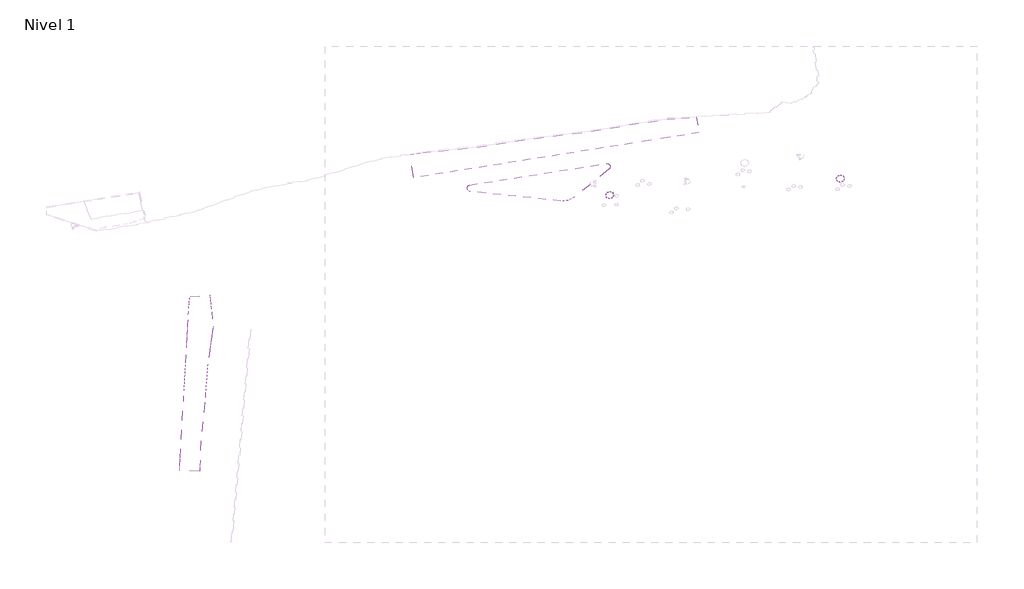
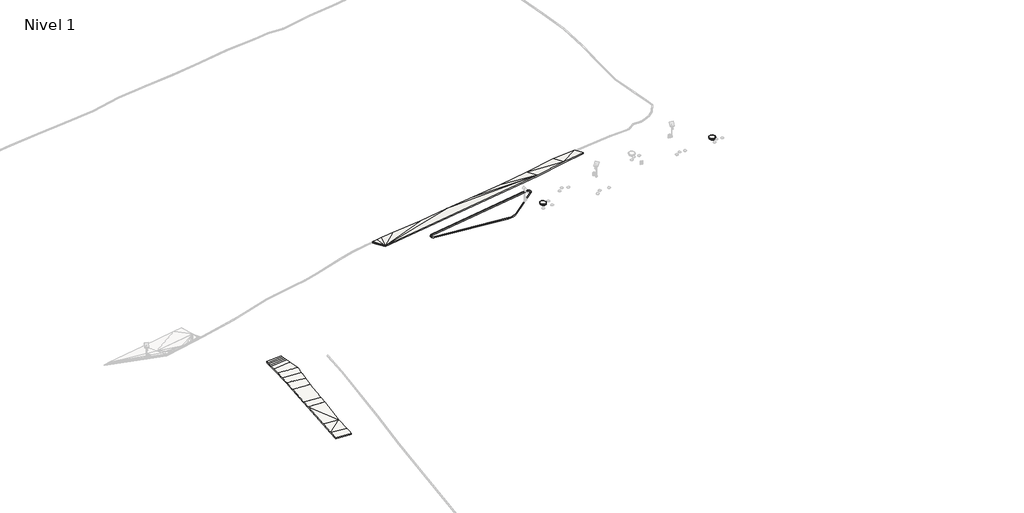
# One storey, part 3 of 45: 7 slabs.
"""IFC4 building model written with IfcOpenShell, lengths in millimetres."""

from ifc_helpers import new_model, si_unit, point, frame, frame_2d, origin, place, context, project, spatial, polyline, circle_curve, trimmed, segment, composite_curve, outline, extrude, faceted_brep, element, save
from ifc_brep_helpers import plane_surface, spline_surface, advanced_brep

model = new_model("IFC4")

# Units and contexts
model_context = context("Model", 3, world=origin())
ifc_project = project(units=[si_unit("LENGTHUNIT", "METRE", prefix="MILLI")], contexts=[model_context])

# Site, building, storey
site = spatial("IfcSite", under=ifc_project)
building = spatial("IfcBuilding", under=site)
storey = spatial("IfcBuildingStorey", under=building, Name="Nivel 1", Elevation=0.0)

# Slabs
placement = place(None, origin())
element("IfcSlab", 1, ObjectType="Lippia", at=placement, inside=storey, context=model_context, shape_type="AdvancedBrep", body=[
    advanced_brep(
    [(-184496.1058246, -654322.7429329, 3554.6), (-184496.1058246, -654322.7429329, 3854.6), (-189731.4161005, -654106.1970903, 3854.6), (-189731.4161005, -654106.1970903, 3554.6), (-189546.2532869, -650883.0380805, 3905.3), (-189263.2407896, -645956.5938192, 3792.3), (-188699.2810223, -636139.6550432, 3847.0), (-188537.7360528, -633327.6156616, 3838.2), (-188125.5251199, -626152.1933592, 3814.2), (-187891.4621024, -622077.8206015, 3700.8), (-187723.1731787, -619148.3881192, 3595.1), (-187554.884255, -616218.9556368, 3497.3), (-187402.5827669, -613567.8190297, 3254.9), (-187310.4012389, -611963.2002797, 3151.0581521), (-187257.4338361, -611041.1881429, 3091.3592409), (-187218.2201095, -610358.5884689, 3047.2086944), (-187218.2201095, -610358.5884689, 2747.2086944), (-187257.4336529, -611041.1849533, 2791.4086944), (-187310.401404, -611963.2031537, 2851.0135864), (-187402.5828387, -613567.8202798, 2954.880616), (-187554.884255, -616218.9556368, 3197.3), (-187723.1731787, -619148.3881192, 3295.1), (-187891.4621024, -622077.8206015, 3400.8), (-188125.5251199, -626152.1933592, 3514.2), (-188537.7360528, -633327.6156616, 3538.2), (-188699.2810223, -636139.6550432, 3547.0), (-189263.2407896, -645956.5938192, 3492.3), (-189546.2532869, -650883.0380805, 3605.3), (-187109.8732387, -609615.93529, 2999.6112), (-187001.5265407, -608873.2829554, 2999.608433), (-187001.5265407, -608873.2829554, 2699.608433), (-187109.8733412, -609615.9359927, 2699.608433), (-181876.8339369, -608524.4190706, 2999.608433), (-181876.8339369, -608524.4190706, 2699.608433), (-181820.6810077, -609041.0458533, 2999.608433), (-181742.1684498, -609763.3891164, 3047.2156632), (-181669.3002328, -610433.8024494, 3091.392846), (-181570.8732642, -611339.365325, 3151.0533657), (-181399.5777228, -612915.3448078, 3254.8407781), (-180999.5715642, -616595.5427485, 3497.3), (-180999.5715642, -616595.5427485, 3197.3), (-181399.57786, -612915.3435457, 2954.8601621), (-181570.8730309, -611339.3674716, 2851.0203953), (-181669.3002674, -610433.8021313, 2791.3977379), (-181742.1682915, -609763.3905729, 2747.1933132), (-181820.6809812, -609041.0460964, 2699.6299987), (-181440.9191333, -619645.5123723, 3595.0893085), (-181917.9707778, -622942.2180219, 3700.789563), (-182429.8204007, -626479.3980389, 3814.2), (-182429.8204007, -626479.3980389, 3514.2), (-181917.9707778, -622942.2180219, 3400.789563), (-181440.9191333, -619645.5123723, 3295.0893085), (-183006.3665143, -633765.3212894, 3838.1575383), (-183219.1632911, -636454.4747635, 3847.0), (-183219.1632911, -636454.4747635, 3547.0), (-183006.3665143, -633765.3212894, 3538.1575383), (-184270.6425846, -646409.1370107, 3792.3), (-184270.6425846, -646409.1370107, 3492.3), (-184376.4178112, -651429.1113493, 3905.3), (-184376.4178112, -651429.1113493, 3605.3)],
    [
        (0, 1),
        (1, 2),
        (2, 3),
        (3, 0),
        (2, 4),
        (4, 5),
        (5, 6),
        (6, 7),
        (7, 8),
        (8, 9),
        (9, 10),
        (10, 11),
        (11, 12),
        (12, 13),
        (13, 14),
        (14, 15),
        (15, 16),
        (16, 17),
        (17, 18),
        (18, 19),
        (19, 20),
        (20, 21),
        (21, 22),
        (22, 23),
        (23, 24),
        (24, 25),
        (25, 26),
        (26, 27),
        (27, 3),
        (15, 28),
        (28, 29),
        (29, 30),
        (30, 31),
        (31, 16),
        (29, 32),
        (32, 33),
        (33, 30),
        (32, 34),
        (34, 35),
        (35, 36),
        (36, 37),
        (37, 38),
        (38, 39),
        (39, 40),
        (40, 41),
        (41, 42),
        (42, 43),
        (43, 44),
        (44, 45),
        (45, 33),
        (39, 46),
        (46, 47),
        (47, 48),
        (48, 49),
        (49, 50),
        (50, 51),
        (51, 40),
        (48, 52),
        (52, 53),
        (53, 54),
        (54, 55),
        (55, 49),
        (53, 56),
        (56, 57),
        (57, 54),
        (56, 58),
        (58, 59),
        (59, 57),
        (58, 1),
        (0, 59),
        (56, 4),
        (4, 58),
        (59, 27),
        (27, 57),
        (28, 34),
        (45, 31),
        (53, 6),
        (6, 56),
        (57, 25),
        (25, 54),
        (5, 56),
        (57, 26),
        (48, 8),
        (7, 52),
        (55, 24),
        (23, 49),
        (39, 11),
        (10, 46),
        (51, 21),
        (20, 40),
        (47, 9),
        (22, 50),
        (38, 12),
        (37, 13),
        (19, 41),
        (18, 42),
        (36, 14),
        (35, 15),
        (17, 43),
        (16, 44),
    ],
    [
        plane_surface(frame((-184496.1058246, -654322.7429329, 2600.0), z_axis=(-0.04132722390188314, -0.9991456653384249, 0.0), x_axis=(0.0, 0.0, 1.0))),
        plane_surface(frame((-189731.4161005, -654106.1970903, 2600.0), z_axis=(-0.9983539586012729, 0.057353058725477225, 0.0), x_axis=(0.0, 0.0, 1.0))),
        plane_surface(frame((-187218.2201417, -610358.58903, 2600.0), z_axis=(-0.989524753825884, 0.14436329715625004, 0.0), x_axis=(0.0, 0.0, 1.0))),
        plane_surface(frame((-187001.5265407, -608873.2829554, 2600.0), z_axis=(-0.0679178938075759, 0.9976909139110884, 0.0), x_axis=(0.0, 0.0, 1.0))),
        plane_surface(frame((-181876.8339369, -608524.4190706, 2600.0), z_axis=(0.9941449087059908, 0.10805508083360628, 0.0), x_axis=(0.0, 0.0, 1.0))),
        plane_surface(frame((-180999.5715642, -616595.5427485, 2600.0), z_axis=(0.989691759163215, -0.14321390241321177, 0.0), x_axis=(0.0, 0.0, 1.0))),
        plane_surface(frame((-182429.8204007, -626479.3980389, 2600.0), z_axis=(0.9968837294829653, -0.07888491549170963, 0.0), x_axis=(0.0, 0.0, 1.0))),
        plane_surface(frame((-183219.1632911, -636454.4747635, 2600.0), z_axis=(0.9944677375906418, -0.10504246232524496, 0.0), x_axis=(0.0, 0.0, 1.0))),
        plane_surface(frame((-184270.6425846, -646409.1370107, 2600.0), z_axis=(0.999778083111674, -0.02106619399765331, 0.0), x_axis=(0.0, 0.0, 1.0))),
        plane_surface(frame((-184376.4178112, -651429.1113493, 2600.0), z_axis=(0.9991456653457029, -0.04132722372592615, 0.0), x_axis=(0.0, 0.0, 1.0))),
        plane_surface(frame((-186064.4378942, -649573.7621468, 3867.6333333), z_axis=(0.0023717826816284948, 0.022454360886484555, 0.9997450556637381), x_axis=(0.021060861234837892, 0.9995249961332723, -0.022499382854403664))),
        plane_surface(frame((-186064.4378942, -649573.7621468, 3567.6333333), z_axis=(-0.0023717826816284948, -0.022454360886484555, -0.9997450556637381), x_axis=(0.021060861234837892, 0.9995249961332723, -0.022499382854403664))),
        plane_surface(frame((-184452.2287066, -609013.670968, 2999.608433), z_axis=(0.0, 0.0, 1.0), x_axis=(-0.9976909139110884, -0.0679178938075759, 0.0))),
        plane_surface(frame((-184452.2287066, -609013.670968, 2699.608433), z_axis=(0.0, 0.0, -1.0), x_axis=(-0.9976909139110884, -0.0679178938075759, 0.0))),
        plane_surface(frame((-185396.3622993, -639667.7556058, 3828.7666667), z_axis=(-0.0003137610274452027, -0.005461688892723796, 0.9999850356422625), x_axis=(0.10504089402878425, 0.9944528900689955, 0.005464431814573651))),
        plane_surface(frame((-185396.3622993, -639667.7556058, 3528.7666667), z_axis=(0.0003137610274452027, 0.005461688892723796, -0.9999850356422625), x_axis=(0.10504089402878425, 0.9944528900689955, 0.005464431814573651))),
        plane_surface(frame((-187411.0547988, -642835.1286244, 3810.5333333), z_axis=(-0.0005024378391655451, -0.005543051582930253, 0.9999845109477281), x_axis=(-0.39598579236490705, 0.9182436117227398, 0.00489098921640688))),
        plane_surface(frame((-187411.0547988, -642835.1286244, 3510.5333333), z_axis=(0.0005024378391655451, 0.005543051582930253, -0.9999845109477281), x_axis=(-0.39598579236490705, 0.9182436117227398, 0.00489098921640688))),
        spline_surface(1, 1, [[(-188125.5251199, -626152.1933592, 3814.2), (-182429.8204007, -626479.3980389, 3814.2)], [(-188537.7360528, -633327.6156616, 3838.2), (-183006.3665143, -633765.3212894, 3838.1575383)]], [2, 2], [2, 2], [0.0, 1.0], [0.0, 1.0]),
        spline_surface(1, 1, [[(-188125.5251199, -626152.1933592, 3514.2), (-188537.7360528, -633327.6156616, 3538.2)], [(-182429.8204007, -626479.3980389, 3514.2), (-183006.3665143, -633765.3212894, 3538.1575383)]], [2, 2], [2, 2], [0.0, 1.0], [0.0, 1.0]),
        spline_surface(1, 1, [[(-187554.884255, -616218.9556368, 3497.3), (-180999.5715642, -616595.5427485, 3497.3)], [(-187723.1731787, -619148.3881192, 3595.1), (-181440.9191333, -619645.5123723, 3595.0893085)]], [2, 2], [2, 2], [0.0, 1.0], [0.0, 1.0]),
        spline_surface(1, 1, [[(-187554.884255, -616218.9556368, 3197.3), (-187723.1731787, -619148.3881192, 3295.1)], [(-180999.5715642, -616595.5427485, 3197.3), (-181440.9191333, -619645.5123723, 3295.0893085)]], [2, 2], [2, 2], [0.0, 1.0], [0.0, 1.0]),
        plane_surface(frame((-187693.378887, -647749.5896368, 3829.9666667), z_axis=(0.0020678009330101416, 0.022812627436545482, 0.9997376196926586), x_axis=(-0.9959170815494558, 0.09027273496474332, 0.0))),
        spline_surface(1, 1, [[(-189546.2532869, -650883.0380805, 3905.3), (-184376.4178112, -651429.1113493, 3905.3)], [(-189731.4161005, -654106.1970903, 3854.6), (-184496.1058246, -654322.7429329, 3854.6)]], [2, 2], [2, 2], [0.0, 1.0], [0.0, 1.0]),
        plane_surface(frame((-187693.378887, -647749.5896368, 3529.9666667), z_axis=(-0.0020678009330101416, -0.022812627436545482, -0.9997376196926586), x_axis=(-0.9959170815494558, 0.09027273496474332, 0.0))),
        spline_surface(1, 1, [[(-189546.2532869, -650883.0380805, 3605.3), (-189731.4161005, -654106.1970903, 3554.6)], [(-184376.4178112, -651429.1113493, 3605.3), (-184496.1058246, -654322.7429329, 3554.6)]], [2, 2], [2, 2], [0.0, 1.0], [0.0, 1.0]),
        spline_surface(1, 1, [[(-183006.3665143, -633765.3212894, 3838.1575383), (-183219.1632911, -636454.4747635, 3847.0)], [(-188537.7360528, -633327.6156616, 3838.2), (-188699.2810223, -636139.6550432, 3847.0)]], [2, 2], [2, 2], [0.0, 1.0], [0.0, 1.0]),
        spline_surface(1, 1, [[(-183006.3665143, -633765.3212894, 3538.1575383), (-188537.7360528, -633327.6156616, 3538.2)], [(-183219.1632911, -636454.4747635, 3547.0), (-188699.2810223, -636139.6550432, 3547.0)]], [2, 2], [2, 2], [0.0, 1.0], [0.0, 1.0]),
        spline_surface(1, 1, [[(-181917.9707778, -622942.2180219, 3700.789563), (-182429.8204007, -626479.3980389, 3814.2)], [(-187891.4621024, -622077.8206015, 3700.8), (-188125.5251199, -626152.1933592, 3814.2)]], [2, 2], [2, 2], [0.0, 1.0], [0.0, 1.0]),
        spline_surface(1, 1, [[(-181917.9707778, -622942.2180219, 3700.789563), (-187891.4621024, -622077.8206015, 3700.8)], [(-181440.9191333, -619645.5123723, 3595.0893085), (-187723.1731787, -619148.3881192, 3595.1)]], [2, 2], [2, 2], [0.0, 1.0], [0.0, 1.0]),
        spline_surface(1, 1, [[(-181917.9707778, -622942.2180219, 3400.789563), (-187891.4621024, -622077.8206015, 3400.8)], [(-182429.8204007, -626479.3980389, 3514.2), (-188125.5251199, -626152.1933592, 3514.2)]], [2, 2], [2, 2], [0.0, 1.0], [0.0, 1.0]),
        spline_surface(1, 1, [[(-181917.9707778, -622942.2180219, 3400.789563), (-181440.9191333, -619645.5123723, 3295.0893085)], [(-187891.4621024, -622077.8206015, 3400.8), (-187723.1731787, -619148.3881192, 3295.1)]], [2, 2], [2, 2], [0.0, 1.0], [0.0, 1.0]),
        spline_surface(1, 1, [[(-181399.57786, -612915.3435457, 3254.8601621), (-180999.5715642, -616595.5427485, 3497.3)], [(-187402.5827669, -613567.8190297, 3254.9), (-187554.884255, -616218.9556368, 3497.3)]], [2, 2], [2, 2], [0.0, 1.0], [0.0, 1.0]),
        plane_surface(frame((-184420.8588123, -612446.4332037, 3202.9499854), z_axis=(-0.007054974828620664, 0.06496918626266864, 0.9978623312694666), x_axis=(0.9941449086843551, 0.108055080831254, -6.597469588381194e-06))),
        spline_surface(1, 1, [[(-181399.57786, -612915.3435457, 2954.8601621), (-187402.5827669, -613567.8190297, 2954.9)], [(-180999.5715642, -616595.5427485, 3197.3), (-187554.884255, -616218.9556368, 3197.3)]], [2, 2], [2, 2], [0.0, 1.0], [0.0, 1.0]),
        plane_surface(frame((-184420.8588123, -612446.4332037, 2902.9499854), z_axis=(0.007054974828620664, -0.06496918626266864, -0.9978623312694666), x_axis=(0.9941449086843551, 0.108055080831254, -6.597469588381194e-06))),
        plane_surface(frame((-184452.0021197, -611194.3896924, 3121.2059827), z_axis=(-0.007068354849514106, 0.06496773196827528, 0.9978623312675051), x_axis=(0.9941449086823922, 0.10805508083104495, 6.890186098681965e-06))),
        plane_surface(frame((-184471.7806186, -610399.2416084, 3069.300887), z_axis=(-0.007064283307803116, 0.06501993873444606, 0.9978589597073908), x_axis=(-0.05723359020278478, -0.9962743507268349, 0.06451150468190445))),
        plane_surface(frame((-184452.0021197, -611194.3896924, 2821.2059827), z_axis=(0.007068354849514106, -0.06496773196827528, -0.9978623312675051), x_axis=(0.9941449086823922, 0.10805508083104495, 6.890186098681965e-06))),
        plane_surface(frame((-184471.7806186, -610399.2416084, 2769.300887), z_axis=(0.007064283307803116, -0.06501993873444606, -0.9978589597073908), x_axis=(-0.05723359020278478, -0.9962743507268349, 0.06451150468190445))),
        plane_surface(frame((-184472.7357417, -609694.7399373, 3023.4132821), z_axis=(-0.007065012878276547, 0.06496809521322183, 0.9978623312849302), x_axis=(0.9941449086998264, 0.10805508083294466, 3.521330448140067e-06))),
        plane_surface(frame((-184472.7357417, -609694.7399373, 2723.4132821), z_axis=(0.007065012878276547, -0.06496809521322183, -0.9978623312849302), x_axis=(0.9941449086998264, 0.10805508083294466, 3.521330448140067e-06))),
    ],
    [
        (0, [[1, 2, 3, 4]]),
        (1, [[-3, 5, 6, 7, 8, 9, 10, 11, 12, 13, 14, 15, 16, 17, 18, 19, 20, 21, 22, 23, 24, 25, 26, 27, 28, 29]]),
        (2, [[-17, 30, 31, 32, 33, 34]]),
        (3, [[-32, 35, 36, 37]]),
        (4, [[-36, 38, 39, 40, 41, 42, 43, 44, 45, 46, 47, 48, 49, 50]]),
        (5, [[-44, 51, 52, 53, 54, 55, 56, 57]]),
        (6, [[-54, 58, 59, 60, 61, 62]]),
        (7, [[-60, 63, 64, 65]]),
        (8, [[-64, 66, 67, 68]]),
        (9, [[-67, 69, -1, 70]]),
        (10, [[-66, 71, 72]]),
        (11, [[73, 74, -68]]),
        (12, [[-35, -31, 75, -38]]),
        (13, [[-50, 76, -33, -37]]),
        (14, [[-63, 77, 78]]),
        (15, [[79, 80, -65]]),
        (16, [[-78, -7, 81]]),
        (17, [[82, -27, -79]]),
        (18, [[83, -9, 84, -58]]),
        (19, [[-62, 85, -25, 86]]),
        (20, [[87, -12, 88, -51]]),
        (21, [[-57, 89, -22, 90]]),
        (22, [[-81, -6, -71]]),
        (23, [[-72, -5, -2, -69]]),
        (24, [[-74, -28, -82]]),
        (25, [[-70, -4, -29, -73]]),
        (26, [[-59, -84, -8, -77]]),
        (27, [[-80, -26, -85, -61]]),
        (28, [[-53, 91, -10, -83]]),
        (29, [[-91, -52, -88, -11]]),
        (30, [[-86, -24, 92, -55]]),
        (31, [[-23, -89, -56, -92]]),
        (32, [[-43, 93, -13, -87]]),
        (33, [[-93, -42, 94, -14]]),
        (34, [[-90, -21, 95, -45]]),
        (35, [[-20, 96, -46, -95]]),
        (36, [[-94, -41, 97, -15]]),
        (37, [[-16, -97, -40, 98]]),
        (38, [[-19, 99, -47, -96]]),
        (39, [[100, -48, -99, -18]]),
        (40, [[-98, -39, -75, -30]]),
        (41, [[-34, -76, -49, -100]]),
    ],
),
])
element("IfcSlab", 2, ObjectType="Alcorque", at=placement, inside=storey, context=model_context, shape_type="SweptSolid", body=[
    extrude(outline(composite_curve([segment(trimmed(circle_curve(frame_2d((-17985.6511597, -578211.2206886)), 1050.0), [point((-16935.6511597, -578211.2206886))], [point((-19035.6511597, -578211.2206886))], False, "CARTESIAN"), True, "CONTINUOUS"), segment(trimmed(circle_curve(frame_2d((-17985.6511597, -578211.2206886)), 1050.0), [point((-19035.6511597, -578211.2206886))], [point((-16935.6511597, -578211.2206886))], False, "CARTESIAN"), True, "CONTINUOUS")], self_intersect=False), holes=[composite_curve([segment(trimmed(circle_curve(frame_2d((-17985.6511597, -578211.2206886)), 950.0), [point((-18935.6511597, -578211.2206886))], [point((-17035.6511597, -578211.2206886))], True, "CARTESIAN"), True, "CONTINUOUS"), segment(trimmed(circle_curve(frame_2d((-17985.6511597, -578211.2206886)), 950.0), [point((-17035.6511597, -578211.2206886))], [point((-18935.6511597, -578211.2206886))], True, "CARTESIAN"), True, "CONTINUOUS")], self_intersect=False)]), frame((0.0, 0.0, 5900.0), z_axis=(0.0, 0.0, 1.0), x_axis=(1.0, 0.0, 0.0)), (0.0, 0.0, 1.0), 150.0),
])
element("IfcSlab", 3, ObjectType="Tierra de Chacra (50cm)", at=placement, inside=storey, context=model_context, shape_type="Brep", body=[
    faceted_brep([(-129816.9388296, -571991.1165208, 3155.7647167), (-129816.9388296, -571991.1165208, 3655.7647167), (-129655.5920248, -571967.627223, 3656.0567702), (-129655.5920248, -571967.627223, 3156.0567702), (-128034.3017331, -571665.5111941, 3640.8165228), (-128034.3017331, -571665.5111941, 3140.8165228), (-126432.2872098, -571421.6736214, 3643.7619513), (-126432.2872098, -571421.6736214, 3143.7619513), (-122382.3988679, -570988.1509724, 3711.4313259), (-122382.3988679, -570988.1509724, 3211.4313259), (-112418.8937204, -569972.647808, 3894.7180365), (-112418.8937204, -569972.647808, 3394.7180365), (-102542.3008924, -568406.4524057, 3892.1662442), (-102542.3008924, -568406.4524057, 3392.1662442), (-92622.5293985, -567113.844871, 3981.9397493), (-92622.5293985, -567113.844871, 3481.9397493), (-82695.1778568, -565869.2658967, 4087.9016452), (-82695.1778568, -565869.2658967, 3587.9016452), (-72834.8323781, -564200.1243396, 4050.6321283), (-72834.8323781, -564200.1243396, 3550.6321283), (-62949.4567009, -562689.5786649, 4467.2590994), (-62949.4567009, -562689.5786649, 3967.2590994), (-55426.5866985, -562246.1175117, 4711.7763689), (-55426.5866985, -562246.1175117, 4211.7763689), (-54793.0137243, -566261.3535566, 6066.8228436), (-54793.0137243, -566261.3535566, 5566.8228436), (-62224.4830166, -567433.9815291, 6066.5774475), (-72102.5042676, -568992.656345, 5666.7050289), (-128876.3085986, -577951.120471, 5666.7183399), (-128876.3085986, -577951.120471, 5166.7183399), (-72102.5042676, -568992.656345, 5166.7050289), (-62224.4830166, -567433.9815291, 5566.5774475)], [[[0, 1, 2, 3]], [[3, 2, 4, 5]], [[5, 4, 6, 7]], [[7, 6, 8, 9]], [[9, 8, 10, 11]], [[11, 10, 12, 13]], [[13, 12, 14, 15]], [[15, 14, 16, 17]], [[17, 16, 18, 19]], [[19, 18, 20, 21]], [[21, 20, 22, 23]], [[23, 22, 24, 25]], [[25, 24, 26, 27, 28, 29, 30, 31]], [[29, 28, 1, 0]], [[24, 22, 26]], [[25, 31, 23]], [[28, 2, 1]], [[28, 6, 4]], [[28, 8, 6]], [[28, 4, 2]], [[28, 10, 8]], [[28, 12, 10]], [[29, 0, 3]], [[29, 5, 7]], [[29, 7, 9]], [[29, 3, 5]], [[29, 9, 11]], [[29, 11, 13]], [[16, 14, 27]], [[18, 16, 27]], [[20, 18, 26]], [[22, 20, 26]], [[17, 30, 15]], [[19, 30, 17]], [[21, 31, 19]], [[23, 31, 21]], [[28, 27, 12]], [[14, 12, 27]], [[18, 27, 26]], [[29, 13, 30]], [[15, 30, 13]], [[19, 31, 30]]]),
])
element("IfcSlab", 4, ObjectType="Tierra de Chacra (50cm)", at=placement, inside=storey, context=model_context, shape_type="SweptSolid", body=[
    extrude(outline(composite_curve([segment(trimmed(circle_curve(frame_2d((-77912.2231096, -582485.9422961)), 950.0), [point((-76962.2231096, -582485.9422961))], [point((-78862.2231096, -582485.9422961))], False, "CARTESIAN"), True, "CONTINUOUS"), segment(trimmed(circle_curve(frame_2d((-77912.2231096, -582485.9422961)), 950.0), [point((-78862.2231096, -582485.9422961))], [point((-76962.2231096, -582485.9422961))], False, "CARTESIAN"), True, "CONTINUOUS")], self_intersect=False)), frame((0.0, 0.0, 5500.0), z_axis=(0.0, 0.0, 1.0), x_axis=(1.0, 0.0, 0.0)), (0.0, 0.0, 1.0), 500.0),
])
element("IfcSlab", 5, ObjectType="Tierra de Chacra (50cm)", at=placement, inside=storey, context=model_context, shape_type="SweptSolid", body=[
    extrude(outline(composite_curve([segment(trimmed(circle_curve(frame_2d((-17985.6511597, -578211.2206886)), 950.0), [point((-17035.6511597, -578211.2206886))], [point((-18935.6511597, -578211.2206886))], False, "CARTESIAN"), True, "CONTINUOUS"), segment(trimmed(circle_curve(frame_2d((-17985.6511597, -578211.2206886)), 950.0), [point((-18935.6511597, -578211.2206886))], [point((-17035.6511597, -578211.2206886))], False, "CARTESIAN"), True, "CONTINUOUS")], self_intersect=False)), frame((0.0, 0.0, 5500.0), z_axis=(0.0, 0.0, 1.0), x_axis=(1.0, 0.0, 0.0)), (0.0, 0.0, 1.0), 500.0),
])
element("IfcSlab", 6, ObjectType="Alcorque", at=placement, inside=storey, context=model_context, shape_type="SweptSolid", body=[
    extrude(outline(composite_curve([segment(trimmed(circle_curve(frame_2d((-77912.2231096, -582485.9422961)), 1050.0), [point((-78962.2231096, -582485.9422961))], [point((-76862.2231096, -582485.9422961))], False, "CARTESIAN"), True, "CONTINUOUS"), segment(trimmed(circle_curve(frame_2d((-77912.2231096, -582485.9422961)), 1050.0), [point((-76862.2231096, -582485.9422961))], [point((-78962.2231096, -582485.9422961))], False, "CARTESIAN"), True, "CONTINUOUS")], self_intersect=False), holes=[composite_curve([segment(trimmed(circle_curve(frame_2d((-77912.2231096, -582485.9422961)), 950.0), [point((-78862.2231096, -582485.9422961))], [point((-76962.2231096, -582485.9422961))], True, "CARTESIAN"), True, "CONTINUOUS"), segment(trimmed(circle_curve(frame_2d((-77912.2231096, -582485.9422961)), 950.0), [point((-76962.2231096, -582485.9422961))], [point((-78862.2231096, -582485.9422961))], True, "CARTESIAN"), True, "CONTINUOUS")], self_intersect=False)]), frame((0.0, 0.0, 5900.0), z_axis=(0.0, 0.0, 1.0), x_axis=(1.0, 0.0, 0.0)), (0.0, 0.0, 1.0), 150.0),
])
element("IfcSlab", 7, ObjectType="Tierra de Chacra (25cm)", at=placement, inside=storey, context=model_context, shape_type="SweptSolid", body=[
    extrude(outline(composite_curve([segment(trimmed(circle_curve(frame_2d((-78664.6287905, -575089.9717299)), 849.9999994), [point((-78797.1129894, -574250.359953))], [point((-78132.1068846, -575752.4824233))], False, "CARTESIAN"), True, "CONTINUOUS"), segment(polyline([(-78132.1068846, -575752.4824233), (-87107.9238865, -582967.1873707)]), True, "CONTINUOUS"), segment(trimmed(circle_curve(frame_2d((-90146.4312334, -579186.9792951)), 4849.9999991), [point((-87107.9238865, -582967.1873707))], [point((-90654.1914691, -584010.3266323))], False, "CARTESIAN"), True, "CONTINUOUS"), segment(polyline([(-90654.1914691, -584010.3266323), (-114212.0280208, -581530.3616198)]), True, "CONTINUOUS"), segment(trimmed(circle_curve(frame_2d((-114123.0391134, -580685.0327043)), 850.0000006), [point((-114212.0280208, -581530.3616198))], [point((-114255.5681781, -579845.4280069))], False, "CARTESIAN"), True, "CONTINUOUS"), segment(polyline([(-114255.5681781, -579845.4280069), (-78797.1129894, -574250.359953)]), True, "CONTINUOUS")], self_intersect=False), holes=[composite_curve([segment(polyline([(-114180.6201711, -581232.0102381), (-90622.7836195, -583711.9752506)]), True, "CONTINUOUS"), segment(trimmed(circle_curve(frame_2d((-90146.4312334, -579186.9792951)), 4549.9999991), [point((-90622.7836195, -583711.9752506))], [point((-87295.8727946, -582733.360067))], True, "CARTESIAN"), True, "CONTINUOUS"), segment(polyline([(-87295.8727946, -582733.360067), (-78320.0557927, -575518.6551196)]), True, "CONTINUOUS"), segment(trimmed(circle_curve(frame_2d((-78664.6287905, -575089.9717299)), 549.9999994), [point((-78320.0557927, -575518.6551196))], [point((-78750.3538604, -574546.6935215))], True, "CARTESIAN"), True, "CONTINUOUS"), segment(polyline([(-78750.3538604, -574546.6935215), (-114208.8002734, -580141.7601907)]), True, "CONTINUOUS"), segment(trimmed(circle_curve(frame_2d((-114123.0391134, -580685.0327043)), 550.0000006), [point((-114208.8002734, -580141.7601907))], [point((-114180.6201711, -581232.0102381))], True, "CARTESIAN"), True, "CONTINUOUS")], self_intersect=False)]), frame((0.0, 0.0, 5450.0), z_axis=(0.0, 0.0, 1.0), x_axis=(1.0, 0.0, 0.0)), (0.0, 0.0, 1.0), 250.0),
])

save(model, "model.ifc")
